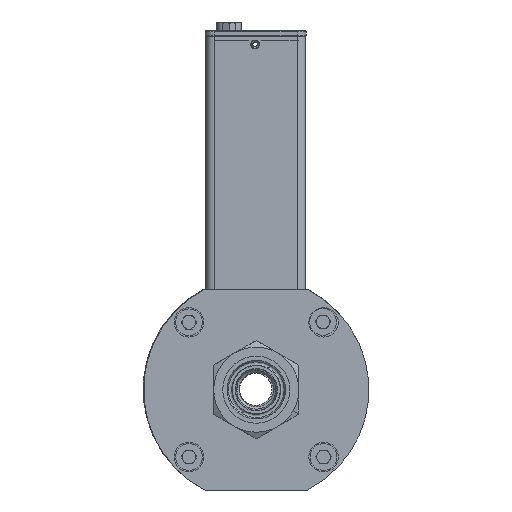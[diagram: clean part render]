
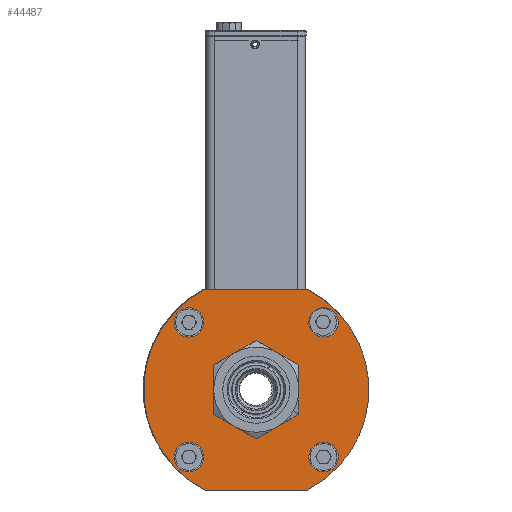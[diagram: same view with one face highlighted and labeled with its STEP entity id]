
A CAD part, front view. The second image highlights one B-rep face of the part: STEP entity #44487.
In plain terms, the highlighted planar face has unit normal (0, -1, 0) as drawn and (0, 1, 0) by its records, which use the part's own axes.
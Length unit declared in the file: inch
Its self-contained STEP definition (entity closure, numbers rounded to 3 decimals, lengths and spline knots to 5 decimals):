
#56 = EDGE_LOOP ( 'NONE', ( #42051, #39872, #62926, #27686 ) ) ;
#370 = DIRECTION ( 'NONE',  ( 0., 0., 1. ) ) ;
#773 = AXIS2_PLACEMENT_3D ( 'NONE', #34773, #52296, #63304 ) ;
#1095 = AXIS2_PLACEMENT_3D ( 'NONE', #45066, #56331, #4678 ) ;
#1302 = CARTESIAN_POINT ( 'NONE',  ( 0., 0.68898, -0.30807 ) ) ;
#1491 = VECTOR ( 'NONE', #65236, 39.37008 ) ;
#2302 = CARTESIAN_POINT ( 'NONE',  ( 0., 0.68898, 0. ) ) ;
#3223 = FACE_BOUND ( 'NONE', #54994, .T. ) ;
#3277 = LINE ( 'NONE', #19010, #1491 ) ;
#4678 = DIRECTION ( 'NONE',  ( 0., 0., -1. ) ) ;
#5396 = VERTEX_POINT ( 'NONE', #56131 ) ;
#5884 = CIRCLE ( 'NONE', #47344, 0.21654 ) ;
#6184 = DIRECTION ( 'NONE',  ( 0., -1., 0. ) ) ;
#6244 = CARTESIAN_POINT ( 'NONE',  ( 0.98828, 0.68898, 0.98828 ) ) ;
#6346 = VERTEX_POINT ( 'NONE', #26743 ) ;
#7975 = DIRECTION ( 'NONE',  ( 0., 1., 0. ) ) ;
#8332 = VERTEX_POINT ( 'NONE', #13864 ) ;
#8881 = ORIENTED_EDGE ( 'NONE', *, *, #53358, .T. ) ;
#9736 = EDGE_CURVE ( 'NONE', #10705, #46847, #11018, .T. ) ;
#10361 = CARTESIAN_POINT ( 'NONE',  ( 0., 0.68898, 0. ) ) ;
#10705 = VERTEX_POINT ( 'NONE', #53543 ) ;
#10711 = DIRECTION ( 'NONE',  ( 0., -1., 0. ) ) ;
#10736 = VERTEX_POINT ( 'NONE', #72300 ) ;
#11018 = CIRCLE ( 'NONE', #1095, 0.21654 ) ;
#11435 = CIRCLE ( 'NONE', #55060, 0.21654 ) ;
#12319 = CARTESIAN_POINT ( 'NONE',  ( -0.98828, 0.68898, 0.98828 ) ) ;
#12577 = PLANE ( 'NONE',  #773 ) ;
#12932 = AXIS2_PLACEMENT_3D ( 'NONE', #44347, #60869, #44096 ) ;
#13864 = CARTESIAN_POINT ( 'NONE',  ( -0.98828, 0.68898, 1.20481 ) ) ;
#14840 = FACE_BOUND ( 'NONE', #34221, .T. ) ;
#16764 = EDGE_CURVE ( 'NONE', #66197, #34971, #36691, .T. ) ;
#16841 = AXIS2_PLACEMENT_3D ( 'NONE', #12319, #29257, #40746 ) ;
#17050 = LINE ( 'NONE', #58057, #31341 ) ;
#17864 = DIRECTION ( 'NONE',  ( 0., 0., -1. ) ) ;
#18311 = VERTEX_POINT ( 'NONE', #1302 ) ;
#19010 = CARTESIAN_POINT ( 'NONE',  ( 0., 0.68898, 1.47244 ) ) ;
#19189 = ORIENTED_EDGE ( 'NONE', *, *, #54742, .T. ) ;
#19363 = CIRCLE ( 'NONE', #12932, 1.65354 ) ;
#19602 = CARTESIAN_POINT ( 'NONE',  ( -0.98828, 0.68898, -0.77174 ) ) ;
#20807 = DIRECTION ( 'NONE',  ( 0., -1., 0. ) ) ;
#22096 = ORIENTED_EDGE ( 'NONE', *, *, #32816, .T. ) ;
#22458 = AXIS2_PLACEMENT_3D ( 'NONE', #10361, #56768, #67532 ) ;
#22516 = CARTESIAN_POINT ( 'NONE',  ( 0.98828, 0.68898, -0.98828 ) ) ;
#22872 = EDGE_CURVE ( 'NONE', #24420, #50147, #17050, .T. ) ;
#23848 = DIRECTION ( 'NONE',  ( -1., 0., 0. ) ) ;
#24146 = CIRCLE ( 'NONE', #37848, 0.21654 ) ;
#24420 = VERTEX_POINT ( 'NONE', #25182 ) ;
#25182 = CARTESIAN_POINT ( 'NONE',  ( 0.75241, 0.68898, -1.47244 ) ) ;
#25549 = EDGE_CURVE ( 'NONE', #18311, #6346, #57468, .T. ) ;
#26743 = CARTESIAN_POINT ( 'NONE',  ( 0., 0.68898, 0.30807 ) ) ;
#27686 = ORIENTED_EDGE ( 'NONE', *, *, #29932, .T. ) ;
#28250 = DIRECTION ( 'NONE',  ( 0., 0., -1. ) ) ;
#28701 = CARTESIAN_POINT ( 'NONE',  ( -0.75241, 0.68898, -1.47244 ) ) ;
#28784 = CARTESIAN_POINT ( 'NONE',  ( 0., 0.68898, 0. ) ) ;
#29257 = DIRECTION ( 'NONE',  ( 0., -1., 0. ) ) ;
#29707 = EDGE_CURVE ( 'NONE', #46847, #10705, #11435, .T. ) ;
#29932 = EDGE_CURVE ( 'NONE', #50147, #35026, #68615, .T. ) ;
#30441 = AXIS2_PLACEMENT_3D ( 'NONE', #6244, #39906, #62429 ) ;
#31060 = VERTEX_POINT ( 'NONE', #58697 ) ;
#31270 = CARTESIAN_POINT ( 'NONE',  ( 0.98828, 0.68898, -1.20481 ) ) ;
#31341 = VECTOR ( 'NONE', #23848, 39.37008 ) ;
#31514 = CARTESIAN_POINT ( 'NONE',  ( -0.98828, 0.68898, 0.98828 ) ) ;
#31836 = CIRCLE ( 'NONE', #53585, 0.21654 ) ;
#32816 = EDGE_CURVE ( 'NONE', #6346, #18311, #68288, .T. ) ;
#33489 = ORIENTED_EDGE ( 'NONE', *, *, #29707, .T. ) ;
#34221 = EDGE_LOOP ( 'NONE', ( #8881, #63926 ) ) ;
#34773 = CARTESIAN_POINT ( 'NONE',  ( 0., 0.68898, 0. ) ) ;
#34826 = CARTESIAN_POINT ( 'NONE',  ( 0.98828, 0.68898, 0.98828 ) ) ;
#34956 = EDGE_CURVE ( 'NONE', #10736, #39641, #24146, .T. ) ;
#34971 = VERTEX_POINT ( 'NONE', #37539 ) ;
#35026 = VERTEX_POINT ( 'NONE', #72327 ) ;
#35866 = AXIS2_PLACEMENT_3D ( 'NONE', #2302, #7975, #47922 ) ;
#36691 = CIRCLE ( 'NONE', #30441, 0.21654 ) ;
#37539 = CARTESIAN_POINT ( 'NONE',  ( 0.98828, 0.68898, 0.77174 ) ) ;
#37786 = DIRECTION ( 'NONE',  ( 0., 0., -1. ) ) ;
#37848 = AXIS2_PLACEMENT_3D ( 'NONE', #72579, #20807, #37786 ) ;
#39041 = AXIS2_PLACEMENT_3D ( 'NONE', #31514, #71751, #66762 ) ;
#39436 = CARTESIAN_POINT ( 'NONE',  ( 0.98828, 0.68898, 1.20481 ) ) ;
#39641 = VERTEX_POINT ( 'NONE', #19602 ) ;
#39872 = ORIENTED_EDGE ( 'NONE', *, *, #53186, .T. ) ;
#39906 = DIRECTION ( 'NONE',  ( 0., -1., 0. ) ) ;
#40746 = DIRECTION ( 'NONE',  ( 0., 0., -1. ) ) ;
#42051 = ORIENTED_EDGE ( 'NONE', *, *, #72065, .T. ) ;
#43423 = EDGE_LOOP ( 'NONE', ( #69164, #49100 ) ) ;
#43662 = EDGE_LOOP ( 'NONE', ( #63540, #19189 ) ) ;
#44096 = DIRECTION ( 'NONE',  ( 0., 0., 1. ) ) ;
#44347 = CARTESIAN_POINT ( 'NONE',  ( 0., 0.68898, 0. ) ) ;
#44487 = ADVANCED_FACE ( 'NONE', ( #70200, #3223, #62195, #14840, #46944, #51431 ), #12577, .T. ) ;
#45066 = CARTESIAN_POINT ( 'NONE',  ( 0.98828, 0.68898, -0.98828 ) ) ;
#46847 = VERTEX_POINT ( 'NONE', #31270 ) ;
#46944 = FACE_BOUND ( 'NONE', #43423, .T. ) ;
#47344 = AXIS2_PLACEMENT_3D ( 'NONE', #56625, #10711, #67875 ) ;
#47922 = DIRECTION ( 'NONE',  ( 0., 0., 1. ) ) ;
#49100 = ORIENTED_EDGE ( 'NONE', *, *, #72771, .T. ) ;
#50147 = VERTEX_POINT ( 'NONE', #28701 ) ;
#51431 = FACE_BOUND ( 'NONE', #72348, .T. ) ;
#52294 = EDGE_CURVE ( 'NONE', #5396, #8332, #52508, .T. ) ;
#52296 = DIRECTION ( 'NONE',  ( 0., 1., 0. ) ) ;
#52508 = CIRCLE ( 'NONE', #39041, 0.21654 ) ;
#52549 = AXIS2_PLACEMENT_3D ( 'NONE', #28784, #57021, #370 ) ;
#53186 = EDGE_CURVE ( 'NONE', #31060, #24420, #19363, .T. ) ;
#53358 = EDGE_CURVE ( 'NONE', #34971, #66197, #31836, .T. ) ;
#53543 = CARTESIAN_POINT ( 'NONE',  ( 0.98828, 0.68898, -0.77174 ) ) ;
#53585 = AXIS2_PLACEMENT_3D ( 'NONE', #34826, #6184, #17864 ) ;
#54558 = CIRCLE ( 'NONE', #16841, 0.21654 ) ;
#54742 = EDGE_CURVE ( 'NONE', #8332, #5396, #54558, .T. ) ;
#54994 = EDGE_LOOP ( 'NONE', ( #22096, #58498 ) ) ;
#55060 = AXIS2_PLACEMENT_3D ( 'NONE', #22516, #62497, #28250 ) ;
#56131 = CARTESIAN_POINT ( 'NONE',  ( -0.98828, 0.68898, 0.77174 ) ) ;
#56331 = DIRECTION ( 'NONE',  ( 0., -1., 0. ) ) ;
#56625 = CARTESIAN_POINT ( 'NONE',  ( -0.98828, 0.68898, -0.98828 ) ) ;
#56768 = DIRECTION ( 'NONE',  ( 0., -1., 0. ) ) ;
#57021 = DIRECTION ( 'NONE',  ( 0., -1., 0. ) ) ;
#57468 = CIRCLE ( 'NONE', #52549, 0.30807 ) ;
#58057 = CARTESIAN_POINT ( 'NONE',  ( 0., 0.68898, -1.47244 ) ) ;
#58498 = ORIENTED_EDGE ( 'NONE', *, *, #25549, .T. ) ;
#58697 = CARTESIAN_POINT ( 'NONE',  ( 0.75241, 0.68898, 1.47244 ) ) ;
#60869 = DIRECTION ( 'NONE',  ( 0., 1., 0. ) ) ;
#62195 = FACE_BOUND ( 'NONE', #43662, .T. ) ;
#62429 = DIRECTION ( 'NONE',  ( 0., 0., -1. ) ) ;
#62497 = DIRECTION ( 'NONE',  ( 0., -1., 0. ) ) ;
#62926 = ORIENTED_EDGE ( 'NONE', *, *, #22872, .T. ) ;
#63304 = DIRECTION ( 'NONE',  ( 0., 0., 1. ) ) ;
#63540 = ORIENTED_EDGE ( 'NONE', *, *, #52294, .T. ) ;
#63926 = ORIENTED_EDGE ( 'NONE', *, *, #16764, .T. ) ;
#65236 = DIRECTION ( 'NONE',  ( 1., 0., 0. ) ) ;
#66152 = ORIENTED_EDGE ( 'NONE', *, *, #9736, .T. ) ;
#66197 = VERTEX_POINT ( 'NONE', #39436 ) ;
#66762 = DIRECTION ( 'NONE',  ( 0., 0., -1. ) ) ;
#67532 = DIRECTION ( 'NONE',  ( 0., 0., 1. ) ) ;
#67875 = DIRECTION ( 'NONE',  ( 0., 0., -1. ) ) ;
#68288 = CIRCLE ( 'NONE', #22458, 0.30807 ) ;
#68615 = CIRCLE ( 'NONE', #35866, 1.65354 ) ;
#69164 = ORIENTED_EDGE ( 'NONE', *, *, #34956, .T. ) ;
#70200 = FACE_OUTER_BOUND ( 'NONE', #56, .T. ) ;
#71751 = DIRECTION ( 'NONE',  ( 0., -1., 0. ) ) ;
#72065 = EDGE_CURVE ( 'NONE', #35026, #31060, #3277, .T. ) ;
#72300 = CARTESIAN_POINT ( 'NONE',  ( -0.98828, 0.68898, -1.20481 ) ) ;
#72327 = CARTESIAN_POINT ( 'NONE',  ( -0.75241, 0.68898, 1.47244 ) ) ;
#72348 = EDGE_LOOP ( 'NONE', ( #33489, #66152 ) ) ;
#72579 = CARTESIAN_POINT ( 'NONE',  ( -0.98828, 0.68898, -0.98828 ) ) ;
#72771 = EDGE_CURVE ( 'NONE', #39641, #10736, #5884, .T. ) ;
